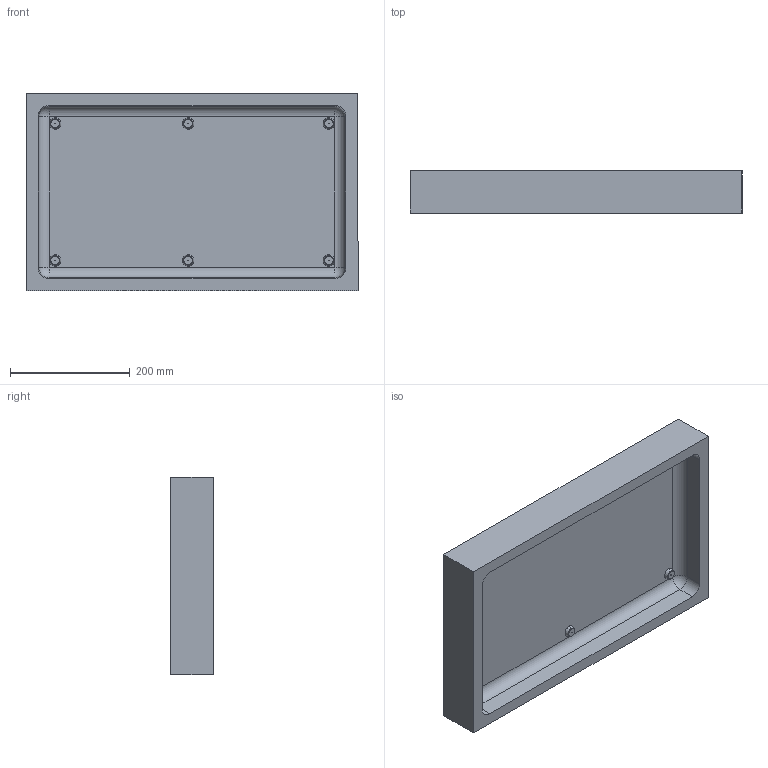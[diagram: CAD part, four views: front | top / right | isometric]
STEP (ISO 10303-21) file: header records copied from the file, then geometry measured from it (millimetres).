
FILE_DESCRIPTION (( 'STEP AP214' ), '1' );
FILE_NAME ('1511-931 Top PID 7-24-2025.STEP', '2025-08-08T06:17:33', ( '' ), ( '' ), 'SwSTEP 2.0', 'SolidWorks 2025', '' );
FILE_SCHEMA (( 'AUTOMOTIVE_DESIGN' ));
Length unit declared in the file: inch
Products named in the file (1): 1511-931 Top PID 7-24-2025
Bounding box: 554.73 x 70.87 x 329.69 mm (x, y, z)
Volume: 6376687.4 mm3; surface area: 550597.1 mm2
Topology: 1 solids, 1 shells, 65 faces, 148 edges, 82 vertices
Faces by surface type: cone 24, plane 17, torus 12, cylinder 8, sphere 4
Entity records: 1741 total; most frequent: DIRECTION 332, CARTESIAN_POINT 292, ORIENTED_EDGE 264, AXIS2_PLACEMENT_3D 138, EDGE_CURVE 132, VERTEX_POINT 82, EDGE_LOOP 78, CIRCLE 72
